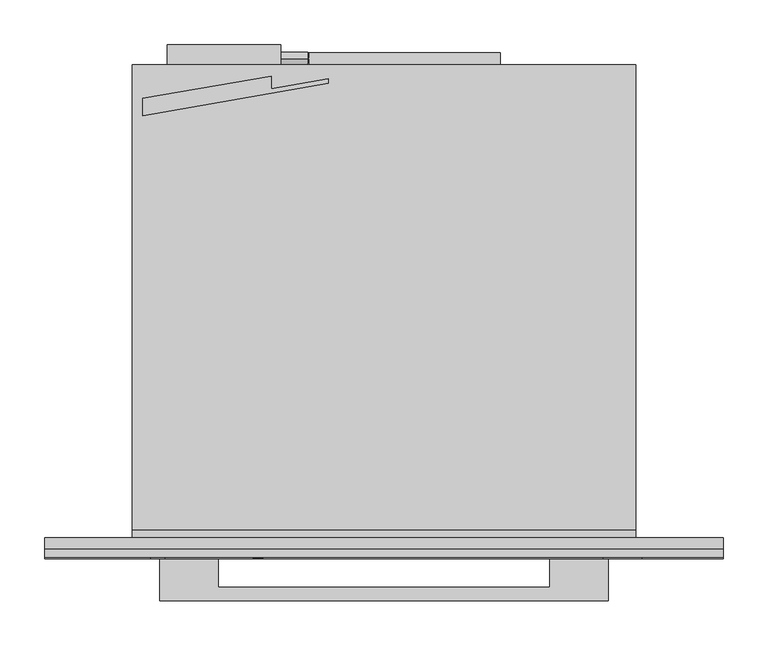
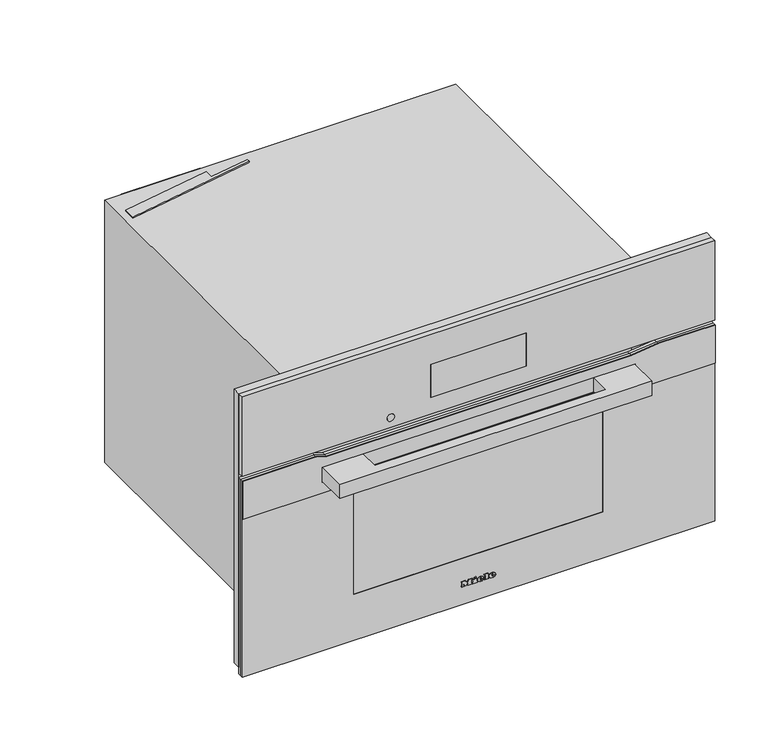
"""IFC4 building model written with IfcOpenShell, lengths in millimetres: proxy geometry, 11804680_USA_H7870BM_EDST-CLST : 22787046_USA_11804680_H7870BM_EDST-CLST."""

from ifc_helpers import new_model, si_unit, point, frame, frame_2d, origin, place, context, project, spatial, polyline, circle_curve, ellipse_curve, trimmed, segment, composite_curve, outline, extrude, faceted_brep, source, transform, mapped, element, save
from ifc_brep_helpers import plane_surface, cylinder_surface, revolved_surface, extruded_surface, advanced_brep


def specialty_equipment_5f143a75(model_context):
    return source(origin(), model_context, "Body", "SolidModel", [
        advanced_brep(
        [(21.28, -23.0, 36.133), (21.28, -23.0, 37.042), (27.301, -23.0, 37.042), (16.825, -23.0, 37.042), (19.3, -23.0, 34.0), (27.148, -23.0, 36.133), (24.43, -23.0, 36.133), (22.288, -23.0, 35.125), (21.28, -23.0, 38.194), (21.28, -23.0, 39.175), (22.819, -23.0, 39.175), (22.819, -23.0, 38.194), (21.28, -22.0, 36.133), (22.288, -22.0, 35.125), (24.43, -22.0, 36.133), (27.148, -22.0, 36.133), (19.3, -22.0, 34.0), (16.825, -22.0, 37.042), (27.301, -22.0, 37.042), (21.28, -22.0, 37.042), (21.28, -22.0, 38.194), (22.819, -22.0, 38.194), (22.819, -22.0, 39.175), (21.28, -22.0, 39.175)],
        [
            (0, 1),
            (1, 2),
            (2, 3, ellipse_curve(frame((22.063, -23.0, 37.042), z_axis=(0.0, -1.0, 0.0), x_axis=(-1.0, 0.0, 0.0)), 5.238, 4.329)),
            (3, 4, circle_curve(frame((20.3080491, -23.0, 37.348), z_axis=(0.0, -1.0, 0.0), x_axis=(0.0, 0.0, -1.0)), 3.4964649)),
            (4, 5, circle_curve(frame((21.9581428, -23.0, 39.724), z_axis=(0.0, -1.0, 0.0), x_axis=(0.0, 0.0, -1.0)), 6.3110933)),
            (5, 6),
            (6, 7, circle_curve(frame((22.7279412, -23.0, 36.97), z_axis=(0.0, 1.0, 0.0), x_axis=(0.0, 0.0, -1.0)), 1.896727)),
            (7, 0, circle_curve(frame((22.288, -23.0, 36.133), z_axis=(0.0, 1.0, 0.0), x_axis=(0.0, 0.0, -1.0)), 1.008)),
            (8, 9),
            (9, 10, circle_curve(frame((22.0495, -23.0, 39.175), z_axis=(0.0, 1.0, 0.0), x_axis=(0.0, 0.0, -1.0)), 0.7695)),
            (10, 11),
            (11, 8),
            (12, 13, circle_curve(frame((22.288, -22.0, 36.133), z_axis=(0.0, -1.0, 0.0), x_axis=(0.0, 0.0, -1.0)), 1.008)),
            (13, 14, circle_curve(frame((22.7279412, -22.0, 36.97), z_axis=(0.0, -1.0, 0.0), x_axis=(0.0, 0.0, -1.0)), 1.896727)),
            (14, 15),
            (15, 16, circle_curve(frame((21.9581428, -22.0, 39.724), z_axis=(0.0, 1.0, 0.0), x_axis=(0.0, 0.0, -1.0)), 6.3110933)),
            (16, 17, circle_curve(frame((20.3080491, -22.0, 37.348), z_axis=(0.0, 1.0, 0.0), x_axis=(0.0, 0.0, -1.0)), 3.4964649)),
            (17, 18, ellipse_curve(frame((22.063, -22.0, 37.042), z_axis=(0.0, 1.0, 0.0), x_axis=(-1.0, 0.0, 0.0)), 5.238, 4.329)),
            (18, 19),
            (19, 12),
            (20, 21),
            (21, 22),
            (22, 23, circle_curve(frame((22.0495, -22.0, 39.175), z_axis=(0.0, -1.0, 0.0), x_axis=(0.0, 0.0, -1.0)), 0.7695)),
            (23, 20),
            (0, 12),
            (19, 1),
            (18, 2),
            (5, 15),
            (14, 6),
            (17, 3),
            (13, 7),
            (16, 4),
            (8, 20),
            (23, 9),
            (22, 10),
            (21, 11),
        ],
        [
            plane_surface(frame((21.28, -23.0, 37.042), z_axis=(0.0, -1.0, 0.0), x_axis=(0.0, 0.0, 1.0))),
            plane_surface(frame((21.28, -22.0, 37.042), z_axis=(0.0, 1.0, 0.0), x_axis=(0.0, 0.0, -1.0))),
            plane_surface(frame((21.28, -23.0, 36.133), z_axis=(1.0, 0.0, 0.0), x_axis=(0.0, 1.0, 0.0))),
            plane_surface(frame((21.28, -23.0, 37.042), z_axis=(0.0, 0.0, -1.0), x_axis=(0.0, 1.0, 0.0))),
            plane_surface(frame((27.148, -23.0, 36.133), z_axis=(0.0, 0.0, 1.0), x_axis=(0.0, 1.0, 0.0))),
            extruded_surface(trimmed(ellipse_curve(frame((22.063, -21.0, 37.042), z_axis=(0.0, -1.0, 0.0), x_axis=(-1.0, 0.0, 0.0)), 5.238, 4.329), [point((27.301, -21.0, 37.042))], [point((16.825, -21.0, 37.042))], True, "CARTESIAN"), (0.0, -1.0, 0.0), 1.0),
            revolved_surface(polyline([(22.7279412, -22.0, 35.073273), (22.7279412, -23.0, 35.073273)]), (22.7279412, -22.0, 36.97), (0.0, 1.0, 0.0)),
            revolved_surface(polyline([(22.288, -22.0, 35.125), (22.288, -23.0, 35.125)]), (22.288, -22.0, 36.133), (0.0, 1.0, 0.0)),
            cylinder_surface(frame((20.3080491, -22.0, 37.348), z_axis=(0.0, -1.0, 0.0), x_axis=(0.0, 0.0, -1.0)), 3.4964649),
            cylinder_surface(frame((21.9581428, -22.0, 39.724), z_axis=(0.0, -1.0, 0.0), x_axis=(0.0, 0.0, -1.0)), 6.3110933),
            plane_surface(frame((21.28, -23.0, 38.194), z_axis=(1.0, 0.0, 0.0), x_axis=(0.0, 1.0, 0.0))),
            revolved_surface(polyline([(22.0495, -22.0, 38.405499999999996), (22.0495, -23.0, 38.405499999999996)]), (22.0495, -22.0, 39.175), (0.0, 1.0, 0.0)),
            plane_surface(frame((22.819, -23.0, 39.175), z_axis=(-1.0, 0.0, 0.0), x_axis=(0.0, 1.0, 0.0))),
            plane_surface(frame((22.819, -23.0, 38.194), z_axis=(0.0, 0.0, 1.0), x_axis=(0.0, 1.0, 0.0))),
        ],
        [
            (0, [[1, 2, 3, 4, 5, 6, 7, 8], [9, 10, 11, 12]]),
            (1, [[13, 14, 15, 16, 17, 18, 19, 20], [21, 22, 23, 24]]),
            (2, [[-1, 25, -20, 26]]),
            (3, [[-2, -26, -19, 27]]),
            (4, [[-6, 28, -15, 29]]),
            (5, [[-3, -27, -18, 30]]),
            (6, [[-7, -29, -14, 31]]),
            (7, [[-8, -31, -13, -25]]),
            (8, [[-4, -30, -17, 32]]),
            (9, [[-5, -32, -16, -28]]),
            (10, [[-9, 33, -24, 34]]),
            (11, [[-10, -34, -23, 35]]),
            (12, [[-11, -35, -22, 36]]),
            (13, [[-12, -36, -21, -33]]),
        ],
    ),
        advanced_brep(
        [(2.497, -23.0, 36.133), (2.497, -23.0, 37.042), (8.518, -23.0, 37.042), (-1.958, -23.0, 37.042), (0.517, -23.0, 34.0), (8.365, -23.0, 36.133), (5.647, -23.0, 36.133), (3.505, -23.0, 35.125), (2.497, -23.0, 38.194), (2.497, -23.0, 39.175), (4.036, -23.0, 39.175), (4.036, -23.0, 38.194), (2.497, -22.0, 36.133), (3.505, -22.0, 35.125), (5.647, -22.0, 36.133), (8.365, -22.0, 36.133), (0.517, -22.0, 34.0), (-1.958, -22.0, 37.042), (8.518, -22.0, 37.042), (2.497, -22.0, 37.042), (2.497, -22.0, 38.194), (4.036, -22.0, 38.194), (4.036, -22.0, 39.175), (2.497, -22.0, 39.175)],
        [
            (0, 1),
            (1, 2),
            (2, 3, ellipse_curve(frame((3.28, -23.0, 37.042), z_axis=(0.0, -1.0, 0.0), x_axis=(-1.0, 0.0, 0.0)), 5.238, 4.329)),
            (3, 4, circle_curve(frame((1.5250491, -23.0, 37.348), z_axis=(0.0, -1.0, 0.0), x_axis=(0.0, 0.0, -1.0)), 3.4964649)),
            (4, 5, circle_curve(frame((3.1751428, -23.0, 39.724), z_axis=(0.0, -1.0, 0.0), x_axis=(0.0, 0.0, -1.0)), 6.3110933)),
            (5, 6),
            (6, 7, circle_curve(frame((3.9449412, -23.0, 36.97), z_axis=(0.0, 1.0, 0.0), x_axis=(0.0, 0.0, -1.0)), 1.896727)),
            (7, 0, circle_curve(frame((3.505, -23.0, 36.133), z_axis=(0.0, 1.0, 0.0), x_axis=(0.0, 0.0, -1.0)), 1.008)),
            (8, 9),
            (9, 10, circle_curve(frame((3.2665, -23.0, 39.175), z_axis=(0.0, 1.0, 0.0), x_axis=(0.0, 0.0, -1.0)), 0.7695)),
            (10, 11),
            (11, 8),
            (12, 13, circle_curve(frame((3.505, -22.0, 36.133), z_axis=(0.0, -1.0, 0.0), x_axis=(0.0, 0.0, -1.0)), 1.008)),
            (13, 14, circle_curve(frame((3.9449412, -22.0, 36.97), z_axis=(0.0, -1.0, 0.0), x_axis=(0.0, 0.0, -1.0)), 1.896727)),
            (14, 15),
            (15, 16, circle_curve(frame((3.1751428, -22.0, 39.724), z_axis=(0.0, 1.0, 0.0), x_axis=(0.0, 0.0, -1.0)), 6.3110933)),
            (16, 17, circle_curve(frame((1.5250491, -22.0, 37.348), z_axis=(0.0, 1.0, 0.0), x_axis=(0.0, 0.0, -1.0)), 3.4964649)),
            (17, 18, ellipse_curve(frame((3.28, -22.0, 37.042), z_axis=(0.0, 1.0, 0.0), x_axis=(-1.0, 0.0, 0.0)), 5.238, 4.329)),
            (18, 19),
            (19, 12),
            (20, 21),
            (21, 22),
            (22, 23, circle_curve(frame((3.2665, -22.0, 39.175), z_axis=(0.0, -1.0, 0.0), x_axis=(0.0, 0.0, -1.0)), 0.7695)),
            (23, 20),
            (0, 12),
            (19, 1),
            (18, 2),
            (5, 15),
            (14, 6),
            (17, 3),
            (13, 7),
            (16, 4),
            (8, 20),
            (23, 9),
            (22, 10),
            (21, 11),
        ],
        [
            plane_surface(frame((2.497, -23.0, 37.042), z_axis=(0.0, -1.0, 0.0), x_axis=(0.0, 0.0, 1.0))),
            plane_surface(frame((2.497, -22.0, 37.042), z_axis=(0.0, 1.0, 0.0), x_axis=(0.0, 0.0, -1.0))),
            plane_surface(frame((2.497, -23.0, 36.133), z_axis=(1.0, 0.0, 0.0), x_axis=(0.0, 1.0, 0.0))),
            plane_surface(frame((2.497, -23.0, 37.042), z_axis=(0.0, 0.0, -1.0), x_axis=(0.0, 1.0, 0.0))),
            plane_surface(frame((8.365, -23.0, 36.133), z_axis=(0.0, 0.0, 1.0), x_axis=(0.0, 1.0, 0.0))),
            extruded_surface(trimmed(ellipse_curve(frame((3.28, -21.0, 37.042), z_axis=(0.0, -1.0, 0.0), x_axis=(-1.0, 0.0, 0.0)), 5.238, 4.329), [point((8.518, -21.0, 37.042))], [point((-1.958, -21.0, 37.042))], True, "CARTESIAN"), (0.0, -1.0, 0.0), 1.0),
            revolved_surface(polyline([(3.9449412, -22.0, 35.073273), (3.9449412, -23.0, 35.073273)]), (3.9449412, -22.0, 36.97), (0.0, 1.0, 0.0)),
            revolved_surface(polyline([(3.505, -22.0, 35.125), (3.505, -23.0, 35.125)]), (3.505, -22.0, 36.133), (0.0, 1.0, 0.0)),
            cylinder_surface(frame((1.5250491, -22.0, 37.348), z_axis=(0.0, -1.0, 0.0), x_axis=(0.0, 0.0, -1.0)), 3.4964649),
            cylinder_surface(frame((3.1751428, -22.0, 39.724), z_axis=(0.0, -1.0, 0.0), x_axis=(0.0, 0.0, -1.0)), 6.3110933),
            plane_surface(frame((2.497, -23.0, 38.194), z_axis=(1.0, 0.0, 0.0), x_axis=(0.0, 1.0, 0.0))),
            revolved_surface(polyline([(3.2665, -22.0, 38.405499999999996), (3.2665, -23.0, 38.405499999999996)]), (3.2665, -22.0, 39.175), (0.0, 1.0, 0.0)),
            plane_surface(frame((4.036, -23.0, 39.175), z_axis=(-1.0, 0.0, 0.0), x_axis=(0.0, 1.0, 0.0))),
            plane_surface(frame((4.036, -23.0, 38.194), z_axis=(0.0, 0.0, 1.0), x_axis=(0.0, 1.0, 0.0))),
        ],
        [
            (0, [[1, 2, 3, 4, 5, 6, 7, 8], [9, 10, 11, 12]]),
            (1, [[13, 14, 15, 16, 17, 18, 19, 20], [21, 22, 23, 24]]),
            (2, [[-1, 25, -20, 26]]),
            (3, [[-2, -26, -19, 27]]),
            (4, [[-6, 28, -15, 29]]),
            (5, [[-3, -27, -18, 30]]),
            (6, [[-7, -29, -14, 31]]),
            (7, [[-8, -31, -13, -25]]),
            (8, [[-4, -30, -17, 32]]),
            (9, [[-5, -32, -16, -28]]),
            (10, [[-9, 33, -24, 34]]),
            (11, [[-10, -34, -23, 35]]),
            (12, [[-11, -35, -22, 36]]),
            (13, [[-12, -36, -21, -33]]),
        ],
    ),
        extrude(outline(polyline([(42.469, -7.34), (41.011, -6.656), (42.433, -3.605), (43.891, -4.28), (42.469, -7.34)])), frame((0.0, -23.0, 0.0), z_axis=(0.0, 1.0, 0.0), x_axis=(0.0, 0.0, 1.0)), (0.0, 0.0, 1.0), 1.0),
        extrude(outline(polyline([(40.813, -9.563), (39.202, -9.563), (39.202, -8.492), (35.512, -8.492), (35.512, -9.563), (34.0, -9.563), (34.0, -2.462), (35.512, -2.462), (35.512, -3.506), (40.813, -3.506), (40.813, -9.563)])), frame((0.0, -23.0, 0.0), z_axis=(0.0, 1.0, 0.0), x_axis=(0.0, 0.0, 1.0)), (0.0, 0.0, 1.0), 1.0),
        extrude(outline(polyline([(41.533, 9.022), (41.533, 10.102), (35.512, 10.102), (35.512, 9.022), (34.0, 9.022), (34.0, 16.321), (35.512, 16.321), (35.512, 15.214), (43.0, 15.214), (43.0, 9.022), (41.533, 9.022)])), frame((0.0, -23.0, 0.0), z_axis=(0.0, 1.0, 0.0), x_axis=(0.0, 0.0, 1.0)), (0.0, 0.0, 1.0), 1.0),
        extrude(outline(polyline([(41.533, -27.5), (41.533, -26.411), (35.512, -26.411), (35.512, -27.5), (34.0, -27.5), (34.0, -23.54), (35.512, -23.54), (35.512, -24.62), (39.3341247, -24.62), (34.0, -20.597), (39.4402223, -16.556), (35.512, -16.556), (35.512, -17.663), (34.0, -17.663), (34.0, -10.481), (35.512, -10.481), (35.512, -11.624), (41.533, -11.624), (41.533, -10.481), (43.0, -10.481), (43.0, -15.962), (39.625, -18.59), (43.0, -21.227), (43.0, -27.5), (41.533, -27.5)])), frame((0.0, -23.0, 0.0), z_axis=(0.0, 1.0, 0.0), x_axis=(0.0, 0.0, 1.0)), (0.0, 0.0, 1.0), 1.0),
        extrude(outline(polyline([(-250.0, -70.3), (-250.0, -22.0), (-185.0, -22.0), (-185.0, -55.3), (185.0, -55.3), (185.0, -22.0), (250.0, -22.0), (250.0, -70.3), (-250.0, -70.3)])), frame((0.0, 0.0, 291.0), z_axis=(0.0, 0.0, 1.0), x_axis=(1.0, 0.0, 0.0)), (0.0, 0.0, 1.0), 24.0),
        extrude(outline(polyline([(337.0, -378.5), (4.0, -378.5), (4.0, 378.5), (337.0, 378.5), (337.0, 287.3542631), (332.0, 244.0), (332.0, -244.0), (337.0, -260.3542631), (337.0, -378.5)]), holes=[polyline([(252.0, 199.5), (82.0, 199.5), (82.0, -199.5), (252.0, -199.5), (252.0, 199.5)])]), frame((0.0, -22.0, 0.0), z_axis=(0.0, 1.0, 0.0), x_axis=(0.0, 0.0, 1.0)), (0.0, 0.0, 1.0), 4.0),
        extrude(outline(polyline([(337.0, -378.5), (272.0, -378.5), (272.0, 378.5), (337.0, 378.5), (337.0, 287.3542631), (332.0, 244.0), (332.0, -244.0), (337.0, -260.3542631), (337.0, -378.5)]), holes=[polyline([(315.5, -250.5), (315.5, 250.5), (290.5, 250.5), (290.5, -250.5), (315.5, -250.5)])]), frame((0.0, -23.3, 0.0), z_axis=(0.0, 1.0, 0.0), x_axis=(0.0, 0.0, 1.0)), (0.0, 0.0, 1.0), 1.3),
        extrude(outline(polyline([(337.0, -378.5), (4.0, -378.5), (4.0, 378.5), (337.0, 378.5), (337.0, 287.3542631), (332.0, 244.0), (332.0, -244.0), (337.0, -260.3542631), (337.0, -378.5)])), frame((0.0, -18.0, 0.0), z_axis=(0.0, 1.0, 0.0), x_axis=(0.0, 0.0, 1.0)), (0.0, 0.0, 1.0), 5.0),
        extrude(outline(polyline([(-199.5, -18.0), (199.5, -18.0), (199.5, -22.0), (-199.5, -22.0), (-199.5, -18.0)])), frame((0.0, 0.0, 82.0), z_axis=(0.0, 0.0, 1.0), x_axis=(1.0, 0.0, 0.0)), (0.0, 0.0, 1.0), 170.0),
        extrude(outline(polyline([(-76.5, -21.0), (76.5, -21.0), (76.5, -22.0), (-76.5, -22.0), (-76.5, -21.0)])), frame((0.0, 0.0, 372.0), z_axis=(0.0, 0.0, 1.0), x_axis=(1.0, 0.0, 0.0)), (0.0, 0.0, 1.0), 56.0),
        faceted_brep([(378.5, -22.0, 479.0), (-378.5, -22.0, 479.0), (-378.5, -22.0, 344.0), (378.5, -22.0, 344.0), (76.5, -22.0, 428.0), (76.5, -22.0, 372.0), (-76.5, -22.0, 372.0), (-76.5, -22.0, 428.0), (378.5, -13.0, 479.0), (378.5, -13.0, 344.0), (-378.5, -13.0, 344.0), (-378.5, -13.0, 479.0), (76.5, -21.0, 428.0), (-76.5, -21.0, 428.0), (-76.5, -21.0, 372.0), (76.5, -21.0, 372.0)], [[[0, 1, 2, 3], [4, 5, 6, 7]], [[8, 9, 10, 11]], [[1, 0, 8, 11]], [[2, 1, 11, 10]], [[3, 2, 10, 9]], [[0, 3, 9, 8]], [[12, 13, 14, 15]], [[12, 15, 5, 4]], [[15, 14, 6, 5]], [[14, 13, 7, 6]], [[13, 12, 4, 7]]]),
        extrude(outline(composite_curve([segment(trimmed(circle_curve(frame_2d((361.0, -140.5745637)), 6.0), [point((361.0, -146.5745637))], [point((361.0, -134.5745637))], False, "CARTESIAN"), True, "CONTINUOUS"), segment(trimmed(circle_curve(frame_2d((361.0, -140.5745637)), 6.0), [point((361.0, -134.5745637))], [point((361.0, -146.5745637))], False, "CARTESIAN"), True, "CONTINUOUS")], self_intersect=False)), frame((0.0, -22.5, 0.0), z_axis=(0.0, 1.0, 0.0), x_axis=(0.0, 0.0, 1.0)), (0.0, 0.0, 1.0), 1.0),
        extrude(outline(polyline([(-269.0, 490.2851942), (-126.0, 515.1547594), (-126.0, 500.9446163), (-62.0, 512.0750511), (-62.0, 507.0), (-269.0, 471.0), (-269.0, 490.2851942)])), frame((0.0, 0.0, 445.0), z_axis=(0.0, 0.0, 1.0), x_axis=(1.0, 0.0, 0.0)), (0.0, 0.0, 1.0), 2.0),
        extrude(outline(polyline([(528.134837, 358.3256163), (533.9911721, 358.3256163), (533.9911721, 357.3256163), (529.134837, 357.3256163), (529.134837, 353.8256163), (532.0849866, 353.8256163), (532.0849866, 352.8256163), (529.134837, 352.8256163), (529.134837, 349.3256163), (533.9911721, 349.3256163), (533.9911721, 348.3256163), (528.134837, 348.3256163), (528.134837, 358.3256163)])), frame((-85.0, 0.0, 0.0), z_axis=(1.0, 0.0, 0.0), x_axis=(0.0, 1.0, 0.0)), (0.0, 0.0, 1.0), 1.0),
        extrude(outline(polyline([(535.4911721, 348.3256163), (535.4911721, 358.3256163), (536.5959622, 358.3256163), (536.5959622, 349.3256163), (540.4911721, 349.3256163), (540.4911721, 348.3256163), (535.4911721, 348.3256163)])), frame((-85.0, 0.0, 0.0), z_axis=(1.0, 0.0, 0.0), x_axis=(0.0, 1.0, 0.0)), (0.0, 0.0, 1.0), 1.0),
        extrude(outline(composite_curve([segment(trimmed(circle_curve(frame_2d((534.0, 353.0)), 7.5), [point((534.0, 345.5))], [point((534.0, 360.5))], False, "CARTESIAN"), True, "CONTINUOUS"), segment(trimmed(circle_curve(frame_2d((534.0, 353.0)), 7.5), [point((534.0, 360.5))], [point((534.0, 345.5))], False, "CARTESIAN"), True, "CONTINUOUS")], self_intersect=False)), frame((-115.0, 0.0, 0.0), z_axis=(1.0, 0.0, 0.0), x_axis=(0.0, 1.0, 0.0)), (0.0, 0.0, 1.0), 30.0),
        extrude(outline(polyline([(-115.0, 528.0), (-242.0, 528.0), (-242.0, 550.0), (-115.0, 550.0), (-115.0, 528.0)])), frame((0.0, 0.0, 325.0), z_axis=(0.0, 0.0, 1.0), x_axis=(1.0, 0.0, 0.0)), (0.0, 0.0, 1.0), 103.0),
        faceted_brep([(272.5, 25.0, 344.0), (-272.5, 25.0, 344.0), (-272.5, 25.0, 15.0), (272.5, 25.0, 15.0), (-235.0, 25.0, 270.0), (235.0, 25.0, 270.0), (235.0, 25.0, 60.0), (-235.0, 25.0, 60.0), (272.5, 0.0, 344.0), (-272.5, 0.0, 344.0), (-272.5, 0.0, 15.0), (272.5, 0.0, 15.0), (281.0, 0.0, 0.0), (281.0, 528.0, 0.0), (281.0, 528.0, 445.0), (281.0, 9.0, 445.0), (281.0, 9.0, 440.0), (281.0, 0.0, 440.0), (-281.0, 9.0, 445.0), (-281.0, 528.0, 445.0), (-281.0, 528.0, 0.0), (-281.0, 0.0, 0.0), (-281.0, 0.0, 440.0), (-281.0, 9.0, 440.0), (235.0, 433.0, 270.0), (-235.0, 433.0, 270.0), (-235.0, 433.0, 60.0), (235.0, 433.0, 60.0)], [[[0, 1, 2, 3], [4, 5, 6, 7]], [[1, 0, 8, 9]], [[2, 1, 9, 10]], [[0, 3, 11, 8]], [[12, 13, 14, 15, 16, 17]], [[18, 19, 20, 21, 22, 23]], [[13, 12, 21, 20]], [[14, 13, 20, 19]], [[15, 14, 19, 18]], [[21, 12, 17, 22], [9, 8, 11, 10]], [[24, 25, 26, 27]], [[25, 24, 5, 4]], [[26, 25, 4, 7]], [[27, 26, 7, 6]], [[24, 27, 6, 5]], [[3, 2, 10, 11]], [[16, 23, 22, 17]], [[23, 16, 15, 18]]]),
        extrude(outline(polyline([(130.0, 528.0), (-130.0, 528.0), (-130.0, 541.0), (130.0, 541.0), (130.0, 528.0)])), frame((0.0, 0.0, 36.0), z_axis=(0.0, 0.0, 1.0), x_axis=(1.0, 0.0, 0.0)), (0.0, 0.0, 1.0), 260.0),
        extrude(outline(polyline([(15.0, 378.5), (479.0, 378.5), (479.0, -378.5), (15.0, -378.5), (15.0, -272.5), (344.0, -272.5), (344.0, 272.5), (15.0, 272.5), (15.0, 378.5)])), frame((0.0, -13.0, 0.0), z_axis=(0.0, 1.0, 0.0), x_axis=(0.0, 0.0, 1.0)), (0.0, 0.0, 1.0), 13.0),
    ])


if __name__ == "__main__":
    model = new_model("IFC4")
    model_context = context("Model", 3, world=origin())
    ifc_project = project(units=[si_unit("LENGTHUNIT", "METRE", prefix="MILLI")], contexts=[model_context])
    site = spatial("IfcSite", under=ifc_project)
    building = spatial("IfcBuilding", under=site)
    placement = place(None, origin())
    specialty_equipment_shape = specialty_equipment_5f143a75(model_context)
    element("IfcBuildingElementProxy", 1, Name="11804680_USA_H7870BM_EDST-CLST : 22787046_USA_11804680_H7870BM_EDST-CLST", ObjectType="11804680_USA_H7870BM_EDST-CLST : 22787046_USA_11804680_H7870BM_EDST-CLST", at=placement, inside=building, context=model_context, shape_type="MappedRepresentation", body=[
        mapped(specialty_equipment_shape, transform((0.0, 0.0, 0.0), x_axis=(1.0, 0.0, 0.0), y_axis=(0.0, 1.0, 0.0), z_axis=(0.0, 0.0, 1.0))),
    ])
    save(model, "model.ifc")
